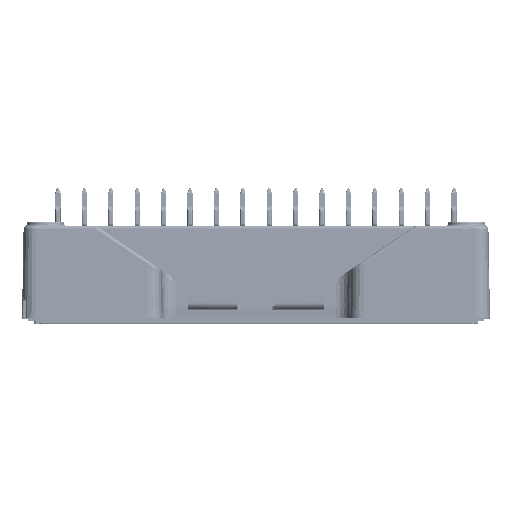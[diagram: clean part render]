
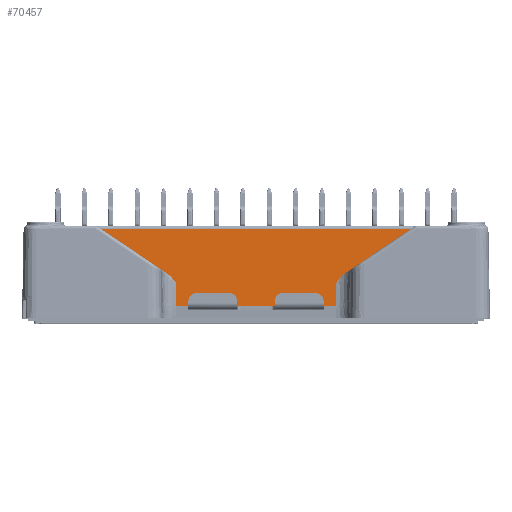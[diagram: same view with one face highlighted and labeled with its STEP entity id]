
A CAD part, top view. The second image highlights one B-rep face of the part: STEP entity #70457.
In plain terms, the highlighted planar face has unit normal (0, 0.018, 1).
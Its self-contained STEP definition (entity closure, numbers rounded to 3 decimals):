
#1785 = DIRECTION ( 'NONE',  ( 0.829, 0.559, -0.01 ) ) ;
#4228 = EDGE_CURVE ( 'NONE', #116533, #139812, #50396, .T. ) ;
#5098 = CARTESIAN_POINT ( 'NONE',  ( -9.65, 2.05, 20.475 ) ) ;
#5736 = VERTEX_POINT ( 'NONE', #119284 ) ;
#9453 = CARTESIAN_POINT ( 'NONE',  ( 18.767, 11.437, 20.311 ) ) ;
#9576 = CARTESIAN_POINT ( 'NONE',  ( 10.105, 5.426, 20.416 ) ) ;
#9873 = CARTESIAN_POINT ( 'NONE',  ( -11.35, 2.05, 20.475 ) ) ;
#10547 = CARTESIAN_POINT ( 'NONE',  ( 9.75, 4.954, 20.425 ) ) ;
#10917 = ORIENTED_EDGE ( 'NONE', *, *, #149173, .T. ) ;
#12388 = VECTOR ( 'NONE', #105271, 1000. ) ;
#14013 = ORIENTED_EDGE ( 'NONE', *, *, #60010, .T. ) ;
#15413 = ORIENTED_EDGE ( 'NONE', *, *, #4228, .T. ) ;
#17682 = VERTEX_POINT ( 'NONE', #5098 ) ;
#18201 = CARTESIAN_POINT ( 'NONE',  ( -18.767, 11.437, 20.311 ) ) ;
#19800 = EDGE_CURVE ( 'NONE', #5736, #145602, #92464, .T. ) ;
#20489 = VERTEX_POINT ( 'NONE', #186489 ) ;
#23592 = CARTESIAN_POINT ( 'NONE',  ( -10.119, 5.443, 20.416 ) ) ;
#24037 = CARTESIAN_POINT ( 'NONE',  ( 10.11, 5.432, 20.416 ) ) ;
#25923 = CARTESIAN_POINT ( 'NONE',  ( 10.679, 5.981, 20.407 ) ) ;
#26079 = VERTEX_POINT ( 'NONE', #99496 ) ;
#26430 = CARTESIAN_POINT ( 'NONE',  ( -9.851, 5.097, 20.422 ) ) ;
#28285 = ORIENTED_EDGE ( 'NONE', *, *, #167126, .T. ) ;
#29333 = CARTESIAN_POINT ( 'NONE',  ( -9.65, 4.812, 20.427 ) ) ;
#29432 = CARTESIAN_POINT ( 'NONE',  ( 10.679, 5.981, 20.407 ) ) ;
#30847 = ORIENTED_EDGE ( 'NONE', *, *, #114437, .T. ) ;
#31754 = B_SPLINE_CURVE_WITH_KNOTS ( 'NONE', 3,
 ( #43161, #10547, #42223, #100825, #72047, #130607, #9576, #24037, #185484, #157603, #112410, #171088, #25923 ),
 .UNSPECIFIED., .F., .F.,
 ( 4, 1, 1, 1, 1, 1, 2, 2, 4 ),
 ( 0., 0.25, 0.375, 0.437, 0.469, 0.484, 0.492, 0.5, 1. ),
 .UNSPECIFIED. ) ;
#32289 = LINE ( 'NONE', #133196, #48770 ) ;
#35368 = VECTOR ( 'NONE', #161491, 1000. ) ;
#42223 = CARTESIAN_POINT ( 'NONE',  ( 9.884, 5.139, 20.421 ) ) ;
#43161 = CARTESIAN_POINT ( 'NONE',  ( 9.65, 4.812, 20.427 ) ) ;
#46683 = LINE ( 'NONE', #163944, #12388 ) ;
#47453 = EDGE_CURVE ( 'NONE', #17682, #26079, #32289, .T. ) ;
#48770 = VECTOR ( 'NONE', #162057, 1000. ) ;
#50396 = LINE ( 'NONE', #105160, #188502 ) ;
#50571 = CARTESIAN_POINT ( 'NONE',  ( -10.203, 5.543, 20.414 ) ) ;
#53639 = VERTEX_POINT ( 'NONE', #131892 ) ;
#60010 = EDGE_CURVE ( 'NONE', #139812, #5736, #167128, .T. ) ;
#61631 = ORIENTED_EDGE ( 'NONE', *, *, #170091, .T. ) ;
#68794 = CARTESIAN_POINT ( 'NONE',  ( -10.129, 5.456, 20.416 ) ) ;
#70457 = ADVANCED_FACE ( 'NONE', ( #125151 ), #79108, .T. ) ;
#72047 = CARTESIAN_POINT ( 'NONE',  ( 10.066, 5.378, 20.417 ) ) ;
#72831 = ORIENTED_EDGE ( 'NONE', *, *, #150844, .T. ) ;
#73819 = CARTESIAN_POINT ( 'NONE',  ( -18.767, 11.437, 20.311 ) ) ;
#74859 = LINE ( 'NONE', #133417, #150161 ) ;
#76836 = DIRECTION ( 'NONE',  ( 0.829, -0.559, 0.01 ) ) ;
#79108 = PLANE ( 'NONE',  #98274 ) ;
#85048 = CARTESIAN_POINT ( 'NONE',  ( -10.139, 5.467, 20.416 ) ) ;
#87991 = VERTEX_POINT ( 'NONE', #185653 ) ;
#88421 = LINE ( 'NONE', #178768, #35368 ) ;
#89167 = ORIENTED_EDGE ( 'NONE', *, *, #47453, .T. ) ;
#89251 = CARTESIAN_POINT ( 'NONE',  ( -10.454, 5.81, 20.41 ) ) ;
#92464 = B_SPLINE_CURVE_WITH_KNOTS ( 'NONE', 3,
 ( #169675, #182217, #89251, #147897, #50571, #128284, #85048, #68794, #143684, #23592, #173478, #26430, #188829 ),
 .UNSPECIFIED., .F., .F.,
 ( 4, 1, 1, 1, 1, 1, 2, 2, 4 ),
 ( 0., 0.25, 0.375, 0.438, 0.469, 0.484, 0.492, 0.5, 1. ),
 .UNSPECIFIED. ) ;
#93507 = CARTESIAN_POINT ( 'NONE',  ( -11.35, 0.63, 20.5 ) ) ;
#98274 = AXIS2_PLACEMENT_3D ( 'NONE', #93507, #139596, #107886 ) ;
#99496 = CARTESIAN_POINT ( 'NONE',  ( -8.2, 2.05, 20.475 ) ) ;
#100825 = CARTESIAN_POINT ( 'NONE',  ( 10.01, 5.306, 20.418 ) ) ;
#105160 = CARTESIAN_POINT ( 'NONE',  ( -11.35, 11.437, 20.311 ) ) ;
#105271 = DIRECTION ( 'NONE',  ( 0., -1., 0.017 ) ) ;
#107886 = DIRECTION ( 'NONE',  ( 0., -1., 0.017 ) ) ;
#112410 = CARTESIAN_POINT ( 'NONE',  ( 10.315, 5.682, 20.412 ) ) ;
#114437 = EDGE_CURVE ( 'NONE', #20489, #53639, #189433, .T. ) ;
#116533 = VERTEX_POINT ( 'NONE', #9453 ) ;
#119284 = CARTESIAN_POINT ( 'NONE',  ( -10.679, 5.981, 20.407 ) ) ;
#123367 = EDGE_CURVE ( 'NONE', #53639, #151919, #31754, .T. ) ;
#123370 = DIRECTION ( 'NONE',  ( -1., 0., 0. ) ) ;
#125151 = FACE_OUTER_BOUND ( 'NONE', #136829, .T. ) ;
#128284 = CARTESIAN_POINT ( 'NONE',  ( -10.16, 5.493, 20.415 ) ) ;
#130607 = CARTESIAN_POINT ( 'NONE',  ( 10.092, 5.41, 20.417 ) ) ;
#130776 = DIRECTION ( 'NONE',  ( 0., 1., -0.017 ) ) ;
#131892 = CARTESIAN_POINT ( 'NONE',  ( 9.65, 4.812, 20.427 ) ) ;
#133196 = CARTESIAN_POINT ( 'NONE',  ( -11.35, 2.05, 20.475 ) ) ;
#133417 = CARTESIAN_POINT ( 'NONE',  ( 10.679, 5.981, 20.407 ) ) ;
#136829 = EDGE_LOOP ( 'NONE', ( #14013, #145771, #72831, #89167, #28285, #61631, #30847, #162136, #10917, #15413 ) ) ;
#139596 = DIRECTION ( 'NONE',  ( 0., 0.017, 1. ) ) ;
#139812 = VERTEX_POINT ( 'NONE', #73819 ) ;
#140182 = VECTOR ( 'NONE', #130776, 1000. ) ;
#141531 = LINE ( 'NONE', #9873, #174214 ) ;
#143347 = CARTESIAN_POINT ( 'NONE',  ( 9.65, 499000., -8689.566 ) ) ;
#143684 = CARTESIAN_POINT ( 'NONE',  ( -10.123, 5.449, 20.416 ) ) ;
#145602 = VERTEX_POINT ( 'NONE', #29333 ) ;
#145771 = ORIENTED_EDGE ( 'NONE', *, *, #19800, .T. ) ;
#147897 = CARTESIAN_POINT ( 'NONE',  ( -10.288, 5.639, 20.413 ) ) ;
#149173 = EDGE_CURVE ( 'NONE', #151919, #116533, #74859, .T. ) ;
#150161 = VECTOR ( 'NONE', #1785, 1000. ) ;
#150844 = EDGE_CURVE ( 'NONE', #145602, #17682, #46683, .T. ) ;
#151919 = VERTEX_POINT ( 'NONE', #29432 ) ;
#153002 = VECTOR ( 'NONE', #76836, 1000. ) ;
#157603 = CARTESIAN_POINT ( 'NONE',  ( 10.114, 5.437, 20.416 ) ) ;
#161491 = DIRECTION ( 'NONE',  ( 1., 0., 0. ) ) ;
#162057 = DIRECTION ( 'NONE',  ( 1., 0., 0. ) ) ;
#162136 = ORIENTED_EDGE ( 'NONE', *, *, #123367, .T. ) ;
#163944 = CARTESIAN_POINT ( 'NONE',  ( -9.65, 499000., -8689.566 ) ) ;
#165231 = DIRECTION ( 'NONE',  ( 1., 0., 0. ) ) ;
#167126 = EDGE_CURVE ( 'NONE', #26079, #87991, #88421, .T. ) ;
#167128 = LINE ( 'NONE', #18201, #153002 ) ;
#169675 = CARTESIAN_POINT ( 'NONE',  ( -10.679, 5.981, 20.407 ) ) ;
#170091 = EDGE_CURVE ( 'NONE', #87991, #20489, #141531, .T. ) ;
#171088 = CARTESIAN_POINT ( 'NONE',  ( 10.502, 5.862, 20.409 ) ) ;
#173478 = CARTESIAN_POINT ( 'NONE',  ( -10.007, 5.307, 20.418 ) ) ;
#174214 = VECTOR ( 'NONE', #165231, 1000. ) ;
#178768 = CARTESIAN_POINT ( 'NONE',  ( -11.35, 2.05, 20.475 ) ) ;
#182217 = CARTESIAN_POINT ( 'NONE',  ( -10.591, 5.922, 20.408 ) ) ;
#185484 = CARTESIAN_POINT ( 'NONE',  ( 10.113, 5.437, 20.416 ) ) ;
#185653 = CARTESIAN_POINT ( 'NONE',  ( 8.2, 2.05, 20.475 ) ) ;
#186489 = CARTESIAN_POINT ( 'NONE',  ( 9.65, 2.05, 20.475 ) ) ;
#188502 = VECTOR ( 'NONE', #123370, 1000. ) ;
#188829 = CARTESIAN_POINT ( 'NONE',  ( -9.65, 4.812, 20.427 ) ) ;
#189433 = LINE ( 'NONE', #143347, #140182 ) ;
